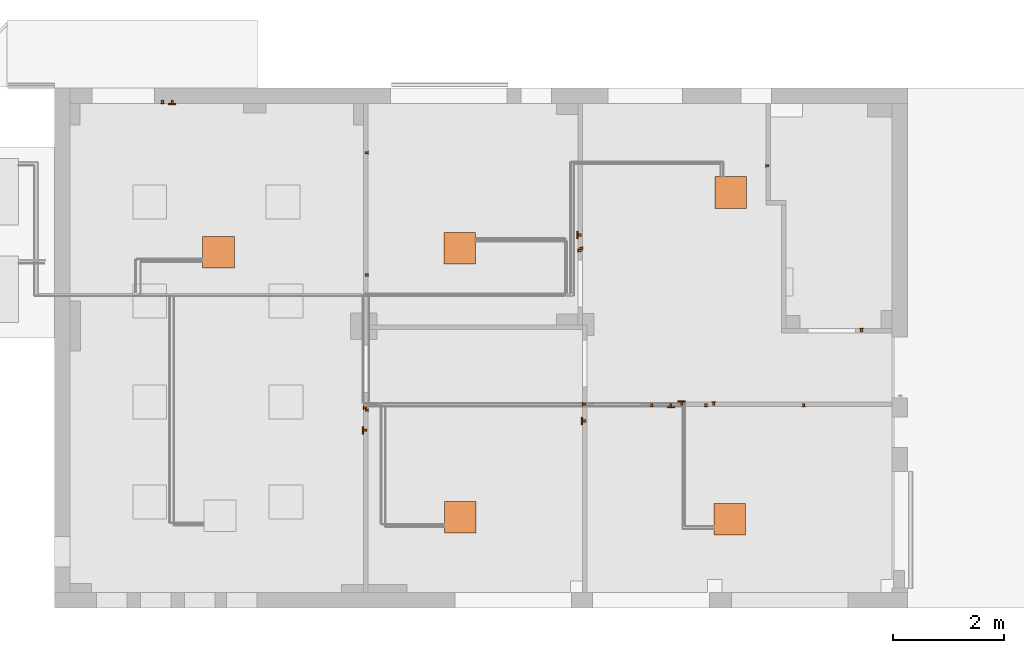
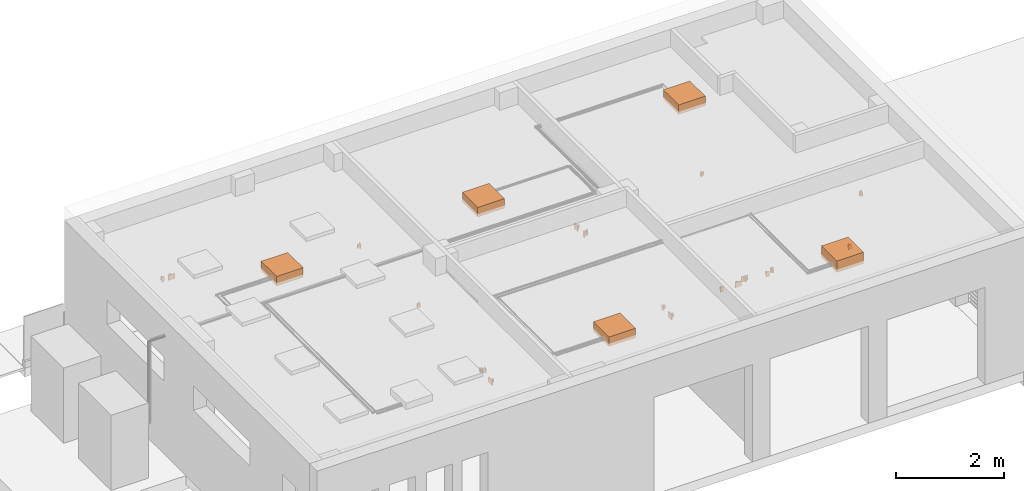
# One storey, part 21 of 22: 25 proxies.
"""IFC2X3 building model written with IfcOpenShell, lengths in millimetres."""

from ifc_helpers import new_model, entity, si_unit, converted_unit, derived_unit, direction, frame, frame_2d, origin, origin_2d_with_axis, place, context, subcontext, project, spatial, rectangle, extrude, source, transform, mapped, material, material_list, type_object, type_shapes, element, save


model = new_model("IFC2X3")

# Units and contexts
model_context = context("Model", 3, precision=0.01, world=origin(), true_north=direction((6.123031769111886e-17, 1.0)))
body_context = subcontext(model_context, "Body", "Model", "MODEL_VIEW")
ifc_project = project(units=[si_unit("LENGTHUNIT", "METRE", prefix="MILLI"), si_unit("AREAUNIT", "SQUARE_METRE"), si_unit("VOLUMEUNIT", "CUBIC_METRE"), converted_unit("PLANEANGLEUNIT", "DEGREE", entity("IfcRatioMeasure", 0.017453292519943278), si_unit("PLANEANGLEUNIT", "RADIAN"), dimensions=[0, 0, 0, 0, 0, 0, 0]), si_unit("MASSUNIT", "GRAM", prefix="KILO"), derived_unit("MASSDENSITYUNIT", [(si_unit("MASSUNIT", "GRAM", prefix="KILO"), 1), (si_unit("LENGTHUNIT", "METRE"), -3)]), derived_unit("MOMENTOFINERTIAUNIT", [(si_unit("LENGTHUNIT", "METRE"), 4)]), si_unit("TIMEUNIT", "SECOND"), si_unit("FREQUENCYUNIT", "HERTZ"), si_unit("THERMODYNAMICTEMPERATUREUNIT", "DEGREE_CELSIUS"), derived_unit("THERMALTRANSMITTANCEUNIT", [(si_unit("MASSUNIT", "GRAM", prefix="KILO"), 1), (si_unit("THERMODYNAMICTEMPERATUREUNIT", "KELVIN"), -1), (si_unit("TIMEUNIT", "SECOND"), -3)]), derived_unit("VOLUMETRICFLOWRATEUNIT", [(si_unit("LENGTHUNIT", "METRE"), 3), (si_unit("TIMEUNIT", "SECOND"), -1)]), derived_unit("MASSFLOWRATEUNIT", [(si_unit("MASSUNIT", "GRAM", prefix="KILO"), 1), (si_unit("TIMEUNIT", "SECOND"), -1)]), derived_unit("ROTATIONALFREQUENCYUNIT", [(si_unit("TIMEUNIT", "SECOND"), -1)]), si_unit("ELECTRICCURRENTUNIT", "AMPERE"), si_unit("ELECTRICVOLTAGEUNIT", "VOLT"), si_unit("POWERUNIT", "WATT"), si_unit("FORCEUNIT", "NEWTON", prefix="KILO"), si_unit("ILLUMINANCEUNIT", "LUX"), si_unit("LUMINOUSFLUXUNIT", "LUMEN"), si_unit("LUMINOUSINTENSITYUNIT", "CANDELA"), derived_unit("USERDEFINED", [(si_unit("MASSUNIT", "GRAM", prefix="KILO"), -1), (si_unit("LENGTHUNIT", "METRE"), -2), (si_unit("TIMEUNIT", "SECOND"), 3), (si_unit("LUMINOUSFLUXUNIT", "LUMEN"), 1)]), derived_unit("SOUNDPOWERUNIT", [(si_unit("MASSUNIT", "GRAM", prefix="KILO"), 1), (si_unit("LENGTHUNIT", "METRE"), 2), (si_unit("TIMEUNIT", "SECOND"), -3)]), derived_unit("SOUNDPRESSUREUNIT", [(si_unit("MASSUNIT", "GRAM", prefix="KILO"), 1), (si_unit("LENGTHUNIT", "METRE"), -1), (si_unit("TIMEUNIT", "SECOND"), -2)]), derived_unit("LINEARVELOCITYUNIT", [(si_unit("LENGTHUNIT", "METRE"), 1), (si_unit("TIMEUNIT", "SECOND"), -1)]), si_unit("PRESSUREUNIT", "PASCAL"), derived_unit("USERDEFINED", [(si_unit("LENGTHUNIT", "METRE"), -2), (si_unit("MASSUNIT", "GRAM", prefix="KILO"), 1), (si_unit("TIMEUNIT", "SECOND"), -2)]), derived_unit("LINEARFORCEUNIT", [(si_unit("MASSUNIT", "GRAM", prefix="KILO"), 1), (si_unit("LENGTHUNIT", "METRE"), 1), (si_unit("TIMEUNIT", "SECOND"), -2), (si_unit("LENGTHUNIT", "METRE"), -1)]), derived_unit("PLANARFORCEUNIT", [(si_unit("MASSUNIT", "GRAM", prefix="KILO"), 1), (si_unit("LENGTHUNIT", "METRE"), 1), (si_unit("TIMEUNIT", "SECOND"), -2), (si_unit("LENGTHUNIT", "METRE"), -2)])], contexts=[model_context])

# Site, building, storey
site_placement = place(None, origin())
site = spatial("IfcSite", under=ifc_project, at=site_placement, Name="Default", CompositionType="ELEMENT")
building_placement = place(site_placement, origin())
building = spatial("IfcBuilding", under=site, at=building_placement, CompositionType="ELEMENT")
storey_placement = place(building_placement, frame((0.0, 0.0, 3300.0)))
storey = spatial("IfcBuildingStorey", under=building, at=storey_placement, Name="Level 2", CompositionType="ELEMENT", Elevation=3299.99999999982)

# Proxies
ifc_material = material(Name="<Unnamed>")
building_element_proxy_type_1 = type_object("IfcBuildingElementProxyType", Name="Indoor LG 4way simple box KRIPIS v3 SYSTEMS:ARNU12GTRC4:ARNU12GTRC4 : Indoor LG 4way simple box KRIPIS v3 SYSTEMS:ARNU12GTRC4", PredefinedType="NOTDEFINED", material=ifc_material)
shared_shape_1 = source(origin(), body_context, "Body", "SweptSolid", [
    extrude(rectangle(XDim=570.0, YDim=569.9999999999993, at=frame_2d((1.4210854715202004e-13, 5.400124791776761e-13), x_axis=(1.0, 0.0))), frame((-6470.581850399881, 2334.1521982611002, 5890.0), z_axis=(0.0, 0.0, 1.0), x_axis=(0.0, 1.0, 0.0)), (0.0, 0.0, 1.0), 214.00000000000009),
])
type_shapes(building_element_proxy_type_1, [shared_shape_1])
proxy_1_placement = place(storey_placement, frame((0.0, 0.0, -3300.0)))
element("IfcBuildingElementProxy", 1, at=proxy_1_placement, inside=storey, type_object=building_element_proxy_type_1, material=ifc_material, context=body_context, shape_type="MappedRepresentation", body=[
    mapped(shared_shape_1, transform((0.0, 0.0, 0.0), scale=1.0)),
])
ifc_material_list_1 = material_list([ifc_material, ifc_material])
ifc_material_list_2 = material_list([ifc_material, ifc_material])
building_element_proxy_type_2 = type_object("IfcBuildingElementProxyType", Name="M_Lighting Switches:Single Pole:Single Pole : M_Lighting Switches:Single Pole", PredefinedType="NOTDEFINED", material=ifc_material_list_2)
shared_shape_2 = source(origin(), body_context, "Body", "SweptSolid", [
    extrude(rectangle(XDim=38.099999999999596, YDim=53.97500000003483, at=frame_2d((0.0, 2.7000623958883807e-13), x_axis=(1.0, 0.0))), frame((-3830.36827874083, -466.647037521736, 4461.899999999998), z_axis=(0.0, 0.0, 1.0), x_axis=(0.0, 1.0, 0.0)), (0.0, 0.0, 1.0), 76.20000000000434),
    extrude(rectangle(XDim=69.84999999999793, YDim=4.762499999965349, at=origin_2d_with_axis()), frame((-3859.7370287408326, -466.647037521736, 4442.849999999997), z_axis=(0.0, 0.0, 1.0), x_axis=(0.0, 1.0, 0.0)), (0.0, 0.0, 1.0), 114.3000000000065),
])
type_shapes(building_element_proxy_type_2, [shared_shape_2])
proxy_2_placement = place(storey_placement, frame((0.0, 0.0, -3300.0)))
element("IfcBuildingElementProxy", 2, at=proxy_2_placement, inside=storey, type_object=building_element_proxy_type_2, material=ifc_material_list_1, Name="M_Lighting Switches:Single Pole:Single Pole : M_Lighting Switches:Single Pole:Single Pole:Single Pole : M_Lighting Switches:Single Pole : M_Lighting Switches:Single Pole:Single Pole : M_Lighting Switches:Single Pole", ObjectType="M_Lighting Switches:Single Pole:Single Pole : M_Lighting Switches:Single Pole:Single Pole:Single Pole : M_Lighting Switches:Single Pole : M_Lighting Switches:Single Pole:Single Pole : M_Lighting Switches:Single Pole", context=body_context, shape_type="MappedRepresentation", body=[
    mapped(shared_shape_2, transform((0.0, 0.0, 0.0), scale=1.0)),
])
ifc_material_list_3 = material_list([ifc_material, ifc_material])
ifc_material_list_4 = material_list([ifc_material, ifc_material])
building_element_proxy_type_3 = type_object("IfcBuildingElementProxyType", Name="M_Lighting Switches:Three Way:Three Way : M_Lighting Switches:Three Way", PredefinedType="NOTDEFINED", material=ifc_material_list_4)
shared_shape_3 = source(origin(), body_context, "Body", "SweptSolid", [
    extrude(rectangle(XDim=38.1, YDim=53.97500000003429, at=frame_2d((0.0, -5.400124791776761e-13), x_axis=(1.0, 0.0))), frame((-7477.35577874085, 5038.14901326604, 4461.899999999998), z_axis=(0.0, 0.0, 1.0), x_axis=(-1.0, 0.0, 0.0)), (0.0, 0.0, 1.0), 76.20000000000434),
    extrude(rectangle(XDim=69.84999999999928, YDim=4.762499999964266, at=frame_2d((0.0, -5.415667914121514e-13), x_axis=(1.0, 0.0))), frame((-7477.35577874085, 5008.780263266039, 4442.849999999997), z_axis=(0.0, 0.0, 1.0), x_axis=(-1.0, 0.0, 0.0)), (0.0, 0.0, 1.0), 114.3000000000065),
])
type_shapes(building_element_proxy_type_3, [shared_shape_3])
proxy_3_placement = place(storey_placement, frame((0.0, 0.0, -3300.0)))
element("IfcBuildingElementProxy", 3, at=proxy_3_placement, inside=storey, type_object=building_element_proxy_type_3, material=ifc_material_list_3, Name="M_Lighting Switches:Three Way:Three Way : M_Lighting Switches:Three Way:Three Way:Three Way : M_Lighting Switches:Three Way : M_Lighting Switches:Three Way:Three Way : M_Lighting Switches:Three Way", ObjectType="M_Lighting Switches:Three Way:Three Way : M_Lighting Switches:Three Way:Three Way:Three Way : M_Lighting Switches:Three Way : M_Lighting Switches:Three Way:Three Way : M_Lighting Switches:Three Way", context=body_context, shape_type="MappedRepresentation", body=[
    mapped(shared_shape_3, transform((0.0, 0.0, 0.0), scale=1.0)),
])
ifc_material_list_5 = material_list([ifc_material, ifc_material])
ifc_material_list_6 = material_list([ifc_material, ifc_material])
building_element_proxy_type_4 = type_object("IfcBuildingElementProxyType", Name="Thermostat Kripis v3:Standard:Standard : Thermostat Kripis v3:Standard", PredefinedType="NOTDEFINED", material=ifc_material_list_6)
shared_shape_4 = source(origin(), body_context, "Body", "SweptSolid", [
    extrude(rectangle(XDim=38.10000000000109, YDim=53.97500000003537, at=frame_2d((5.417888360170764e-13, 0.0), x_axis=(1.0, 0.0))), frame((-7305.450501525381, 5038.14901326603, 4461.899999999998), z_axis=(0.0, 0.0, 1.0), x_axis=(-1.0, 0.0, 0.0)), (0.0, 0.0, 1.0), 76.20000000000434),
    extrude(rectangle(XDim=136.02499999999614, YDim=20.733368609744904, at=frame_2d((-5.400124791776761e-13, -5.417888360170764e-13), x_axis=(1.0, 0.0))), frame((-7303.388001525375, 5000.794828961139, 4442.849999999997), z_axis=(0.0, 0.0, 1.0), x_axis=(-1.0, 0.0, 0.0)), (0.0, 0.0, 1.0), 114.3000000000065),
])
type_shapes(building_element_proxy_type_4, [shared_shape_4])
proxy_4_placement = place(storey_placement, frame((0.0, 0.0, -3300.0)))
element("IfcBuildingElementProxy", 4, at=proxy_4_placement, inside=storey, type_object=building_element_proxy_type_4, material=ifc_material_list_5, Name="Thermostat Kripis v3:Standard:Standard : Thermostat Kripis v3:Standard:Standard:Standard : Thermostat Kripis v3:Standard : Thermostat Kripis v3:Standard:Standard : Thermostat Kripis v3:Standard", ObjectType="Thermostat Kripis v3:Standard:Standard : Thermostat Kripis v3:Standard:Standard:Standard : Thermostat Kripis v3:Standard : Thermostat Kripis v3:Standard:Standard : Thermostat Kripis v3:Standard", context=body_context, shape_type="MappedRepresentation", body=[
    mapped(shared_shape_4, transform((0.0, 0.0, 0.0), scale=1.0)),
])
ifc_material_list_7 = material_list([ifc_material, ifc_material])
ifc_material_list_8 = material_list([ifc_material, ifc_material])
building_element_proxy_type_5 = type_object("IfcBuildingElementProxyType", Name="Thermostat Kripis v3:Standard:Standard : Thermostat Kripis v3:Standard", PredefinedType="NOTDEFINED", material=ifc_material_list_8)
shared_shape_5 = source(origin(), body_context, "Body", "SweptSolid", [
    extrude(rectangle(XDim=38.09999999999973, YDim=53.97500000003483, at=frame_2d((0.0, 2.7000623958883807e-13), x_axis=(1.0, 0.0))), frame((-3830.36827874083, -875.838486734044, 4461.899999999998), z_axis=(0.0, 0.0, 1.0), x_axis=(0.0, 1.0, 0.0)), (0.0, 0.0, 1.0), 76.20000000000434),
    extrude(rectangle(XDim=136.02499999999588, YDim=20.73336860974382, at=origin_2d_with_axis()), frame((-3867.7224630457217, -877.9009867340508, 4442.849999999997), z_axis=(0.0, 0.0, 1.0), x_axis=(0.0, 1.0, 0.0)), (0.0, 0.0, 1.0), 114.3000000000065),
])
type_shapes(building_element_proxy_type_5, [shared_shape_5])
proxy_5_placement = place(storey_placement, frame((0.0, 0.0, -3300.0)))
element("IfcBuildingElementProxy", 5, at=proxy_5_placement, inside=storey, type_object=building_element_proxy_type_5, material=ifc_material_list_7, Name="Thermostat Kripis v3:Standard:Standard : Thermostat Kripis v3:Standard:Standard:Standard : Thermostat Kripis v3:Standard : Thermostat Kripis v3:Standard:Standard : Thermostat Kripis v3:Standard", ObjectType="Thermostat Kripis v3:Standard:Standard : Thermostat Kripis v3:Standard:Standard:Standard : Thermostat Kripis v3:Standard : Thermostat Kripis v3:Standard:Standard : Thermostat Kripis v3:Standard", context=body_context, shape_type="MappedRepresentation", body=[
    mapped(shared_shape_5, transform((0.0, 0.0, 0.0), scale=1.0)),
])
building_element_proxy_type_6 = type_object("IfcBuildingElementProxyType", Name="Indoor LG 4way simple box KRIPIS v3 SYSTEMS:ARNU07GTRC4:ARNU07GTRC4 : Indoor LG 4way simple box KRIPIS v3 SYSTEMS:ARNU07GTRC4", PredefinedType="NOTDEFINED", material=ifc_material)
shared_shape_6 = source(origin(), body_context, "Body", "SweptSolid", [
    extrude(rectangle(XDim=570.0, YDim=569.9999999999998, at=frame_2d((-1.4210854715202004e-13, 0.0), x_axis=(1.0, 0.0))), frame((-2128.35612595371, 2401.16185450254, 5890.0), z_axis=(0.0, 0.0, 1.0), x_axis=(0.0, -1.0, 0.0)), (0.0, 0.0, 1.0), 214.00000000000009),
])
type_shapes(building_element_proxy_type_6, [shared_shape_6])
proxy_6_placement = place(storey_placement, frame((0.0, 0.0, -3300.0)))
element("IfcBuildingElementProxy", 6, at=proxy_6_placement, inside=storey, type_object=building_element_proxy_type_6, material=ifc_material, context=body_context, shape_type="MappedRepresentation", body=[
    mapped(shared_shape_6, transform((0.0, 0.0, 0.0), scale=1.0)),
])
ifc_material_list_9 = material_list([ifc_material, ifc_material])
ifc_material_list_10 = material_list([ifc_material, ifc_material])
building_element_proxy_type_7 = type_object("IfcBuildingElementProxyType", Name="M_Lighting Switches:Single Pole:Single Pole : M_Lighting Switches:Single Pole", PredefinedType="NOTDEFINED", material=ifc_material_list_10)
shared_shape_7 = source(origin(), body_context, "Body", "SweptSolid", [
    extrude(rectangle(XDim=38.09999999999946, YDim=53.975000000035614, at=origin_2d_with_axis()), frame((30.599151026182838, 2362.54883130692, 4461.899999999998), z_axis=(0.0, 0.0, 1.0), x_axis=(0.0, 1.0, 0.0)), (0.0, 0.0, 1.0), 76.20000000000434),
    extrude(rectangle(XDim=69.84999999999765, YDim=4.7624999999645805, at=frame_2d((0.0, -2.220446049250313e-16), x_axis=(1.0, 0.0))), frame((1.2304010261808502, 2362.54883130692, 4442.849999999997), z_axis=(0.0, 0.0, 1.0), x_axis=(0.0, 1.0, 0.0)), (0.0, 0.0, 1.0), 114.3000000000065),
])
type_shapes(building_element_proxy_type_7, [shared_shape_7])
proxy_7_placement = place(storey_placement, frame((0.0, 0.0, -3300.0)))
element("IfcBuildingElementProxy", 7, at=proxy_7_placement, inside=storey, type_object=building_element_proxy_type_7, material=ifc_material_list_9, Name="M_Lighting Switches:Single Pole:Single Pole : M_Lighting Switches:Single Pole:Single Pole:Single Pole : M_Lighting Switches:Single Pole : M_Lighting Switches:Single Pole:Single Pole : M_Lighting Switches:Single Pole", ObjectType="M_Lighting Switches:Single Pole:Single Pole : M_Lighting Switches:Single Pole:Single Pole:Single Pole : M_Lighting Switches:Single Pole : M_Lighting Switches:Single Pole:Single Pole : M_Lighting Switches:Single Pole", context=body_context, shape_type="MappedRepresentation", body=[
    mapped(shared_shape_7, transform((0.0, 0.0, 0.0), scale=1.0)),
])
ifc_material_list_11 = material_list([ifc_material, ifc_material])
ifc_material_list_12 = material_list([ifc_material, ifc_material])
building_element_proxy_type_8 = type_object("IfcBuildingElementProxyType", Name="M_Lighting Switches:Single Pole:Single Pole : M_Lighting Switches:Single Pole", PredefinedType="NOTDEFINED", material=ifc_material_list_12)
shared_shape_8 = source(origin(), body_context, "Body", "SweptSolid", [
    extrude(rectangle(XDim=38.1, YDim=53.97500000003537, at=origin_2d_with_axis()), frame((-3802.3432787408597, 4122.54883130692, 4461.899999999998), z_axis=(0.0, 0.0, 1.0), x_axis=(0.0, -1.0, 0.0)), (0.0, 0.0, 1.0), 76.20000000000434),
    extrude(rectangle(XDim=69.8499999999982, YDim=4.762499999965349, at=origin_2d_with_axis()), frame((-3772.9745287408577, 4122.54883130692, 4442.849999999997), z_axis=(0.0, 0.0, 1.0), x_axis=(0.0, -1.0, 0.0)), (0.0, 0.0, 1.0), 114.3000000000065),
])
type_shapes(building_element_proxy_type_8, [shared_shape_8])
proxy_8_placement = place(storey_placement, frame((0.0, 0.0, -3300.0)))
element("IfcBuildingElementProxy", 8, at=proxy_8_placement, inside=storey, type_object=building_element_proxy_type_8, material=ifc_material_list_11, Name="M_Lighting Switches:Single Pole:Single Pole : M_Lighting Switches:Single Pole:Single Pole:Single Pole : M_Lighting Switches:Single Pole : M_Lighting Switches:Single Pole:Single Pole : M_Lighting Switches:Single Pole", ObjectType="M_Lighting Switches:Single Pole:Single Pole : M_Lighting Switches:Single Pole:Single Pole:Single Pole : M_Lighting Switches:Single Pole : M_Lighting Switches:Single Pole:Single Pole : M_Lighting Switches:Single Pole", context=body_context, shape_type="MappedRepresentation", body=[
    mapped(shared_shape_8, transform((0.0, 0.0, 0.0), scale=1.0)),
])
ifc_material_list_13 = material_list([ifc_material, ifc_material])
ifc_material_list_14 = material_list([ifc_material, ifc_material])
building_element_proxy_type_9 = type_object("IfcBuildingElementProxyType", Name="M_Lighting Switches:Single Pole:Single Pole : M_Lighting Switches:Single Pole", PredefinedType="NOTDEFINED", material=ifc_material_list_14)
shared_shape_9 = source(origin(), body_context, "Body", "SweptSolid", [
    extrude(rectangle(XDim=38.09999999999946, YDim=53.97500000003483, at=frame_2d((0.0, -2.7000623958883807e-13), x_axis=(1.0, 0.0))), frame((-3802.34327874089, 1922.54883130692, 4461.899999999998), z_axis=(0.0, 0.0, 1.0), x_axis=(0.0, -1.0, 0.0)), (0.0, 0.0, 1.0), 76.20000000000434),
    extrude(rectangle(XDim=69.8499999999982, YDim=4.762499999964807, at=frame_2d((0.0, -2.708944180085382e-13), x_axis=(1.0, 0.0))), frame((-3772.974528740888, 1922.54883130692, 4442.849999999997), z_axis=(0.0, 0.0, 1.0), x_axis=(0.0, -1.0, 0.0)), (0.0, 0.0, 1.0), 114.3000000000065),
])
type_shapes(building_element_proxy_type_9, [shared_shape_9])
proxy_9_placement = place(storey_placement, frame((0.0, 0.0, -3300.0)))
element("IfcBuildingElementProxy", 9, at=proxy_9_placement, inside=storey, type_object=building_element_proxy_type_9, material=ifc_material_list_13, Name="M_Lighting Switches:Single Pole:Single Pole : M_Lighting Switches:Single Pole:Single Pole:Single Pole : M_Lighting Switches:Single Pole : M_Lighting Switches:Single Pole:Single Pole : M_Lighting Switches:Single Pole", ObjectType="M_Lighting Switches:Single Pole:Single Pole : M_Lighting Switches:Single Pole:Single Pole:Single Pole : M_Lighting Switches:Single Pole : M_Lighting Switches:Single Pole:Single Pole : M_Lighting Switches:Single Pole", context=body_context, shape_type="MappedRepresentation", body=[
    mapped(shared_shape_9, transform((0.0, 0.0, 0.0), scale=1.0)),
])
ifc_material_list_15 = material_list([ifc_material, ifc_material])
ifc_material_list_16 = material_list([ifc_material, ifc_material])
building_element_proxy_type_10 = type_object("IfcBuildingElementProxyType", Name="Thermostat Kripis v3:Standard:Standard : Thermostat Kripis v3:Standard", PredefinedType="NOTDEFINED", material=ifc_material_list_16)
shared_shape_10 = source(origin(), body_context, "Body", "SweptSolid", [
    extrude(rectangle(XDim=38.09999999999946, YDim=53.975000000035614, at=frame_2d((2.7000623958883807e-13, 0.0), x_axis=(1.0, 0.0))), frame((30.599151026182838, 2642.54883130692, 4461.899999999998), z_axis=(0.0, 0.0, 1.0), x_axis=(0.0, 1.0, 0.0)), (0.0, 0.0, 1.0), 76.20000000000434),
    extrude(rectangle(XDim=136.02499999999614, YDim=20.733368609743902, at=origin_2d_with_axis()), frame((-6.755033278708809, 2640.486331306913, 4442.849999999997), z_axis=(0.0, 0.0, 1.0), x_axis=(0.0, 1.0, 0.0)), (0.0, 0.0, 1.0), 114.3000000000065),
])
type_shapes(building_element_proxy_type_10, [shared_shape_10])
proxy_10_placement = place(storey_placement, frame((0.0, 0.0, -3300.0)))
element("IfcBuildingElementProxy", 10, at=proxy_10_placement, inside=storey, type_object=building_element_proxy_type_10, material=ifc_material_list_15, Name="Thermostat Kripis v3:Standard:Standard : Thermostat Kripis v3:Standard:Standard:Standard : Thermostat Kripis v3:Standard : Thermostat Kripis v3:Standard:Standard : Thermostat Kripis v3:Standard", ObjectType="Thermostat Kripis v3:Standard:Standard : Thermostat Kripis v3:Standard:Standard:Standard : Thermostat Kripis v3:Standard : Thermostat Kripis v3:Standard:Standard : Thermostat Kripis v3:Standard", context=body_context, shape_type="MappedRepresentation", body=[
    mapped(shared_shape_10, transform((0.0, 0.0, 0.0), scale=1.0)),
])
building_element_proxy_type_11 = type_object("IfcBuildingElementProxyType", Name="Indoor LG 4way simple box KRIPIS v3 SYSTEMS:ARNU12GTRC4:ARNU12GTRC4 : Indoor LG 4way simple box KRIPIS v3 SYSTEMS:ARNU12GTRC4", PredefinedType="NOTDEFINED", material=ifc_material)
shared_shape_11 = source(origin(), body_context, "Body", "SweptSolid", [
    extrude(rectangle(XDim=570.0000000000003, YDim=569.9999999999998, at=origin_2d_with_axis()), frame((-2114.95419470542, -2436.93532613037, 5890.0), z_axis=(0.0, 0.0, 1.0), x_axis=(0.0, 1.0, 0.0)), (0.0, 0.0, 1.0), 214.00000000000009),
])
type_shapes(building_element_proxy_type_11, [shared_shape_11])
proxy_11_placement = place(storey_placement, frame((0.0, 0.0, -3300.0)))
element("IfcBuildingElementProxy", 11, at=proxy_11_placement, inside=storey, type_object=building_element_proxy_type_11, material=ifc_material, context=body_context, shape_type="MappedRepresentation", body=[
    mapped(shared_shape_11, transform((0.0, 0.0, 0.0), scale=1.0)),
])
ifc_material_list_17 = material_list([ifc_material, ifc_material])
ifc_material_list_18 = material_list([ifc_material, ifc_material])
building_element_proxy_type_12 = type_object("IfcBuildingElementProxyType", Name="M_Lighting Switches:Three Way:Three Way : M_Lighting Switches:Three Way", PredefinedType="NOTDEFINED", material=ifc_material_list_18)
shared_shape_12 = source(origin(), body_context, "Body", "SweptSolid", [
    extrude(rectangle(XDim=38.09999999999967, YDim=53.97500000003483, at=frame_2d((-3.375077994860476e-14, 2.7000623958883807e-13), x_axis=(1.0, 0.0))), frame((-3802.3432787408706, -514.9691144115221, 4461.899999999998), z_axis=(0.0, 0.0, 1.0), x_axis=(0.0, -1.0, 0.0)), (0.0, 0.0, 1.0), 76.20000000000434),
    extrude(rectangle(XDim=69.849999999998, YDim=4.762499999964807, at=frame_2d((3.197442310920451e-14, -2.708944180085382e-13), x_axis=(1.0, 0.0))), frame((-3772.974528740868, -514.969114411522, 4442.849999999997), z_axis=(0.0, 0.0, 1.0), x_axis=(0.0, -1.0, 0.0)), (0.0, 0.0, 1.0), 114.3000000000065),
])
type_shapes(building_element_proxy_type_12, [shared_shape_12])
proxy_12_placement = place(storey_placement, frame((0.0, 0.0, -3300.0)))
element("IfcBuildingElementProxy", 12, at=proxy_12_placement, inside=storey, type_object=building_element_proxy_type_12, material=ifc_material_list_17, Name="M_Lighting Switches:Three Way:Three Way : M_Lighting Switches:Three Way:Three Way:Three Way : M_Lighting Switches:Three Way : M_Lighting Switches:Three Way:Three Way : M_Lighting Switches:Three Way", ObjectType="M_Lighting Switches:Three Way:Three Way : M_Lighting Switches:Three Way:Three Way:Three Way : M_Lighting Switches:Three Way : M_Lighting Switches:Three Way:Three Way : M_Lighting Switches:Three Way", context=body_context, shape_type="MappedRepresentation", body=[
    mapped(shared_shape_12, transform((0.0, 0.0, 0.0), scale=1.0)),
])
ifc_material_list_19 = material_list([ifc_material, ifc_material])
ifc_material_list_20 = material_list([ifc_material, ifc_material])
building_element_proxy_type_13 = type_object("IfcBuildingElementProxyType", Name="M_Lighting Switches:Three Way:Three Way : M_Lighting Switches:Three Way", PredefinedType="NOTDEFINED", material=ifc_material_list_20)
shared_shape_13 = source(origin(), body_context, "Body", "SweptSolid", [
    extrude(rectangle(XDim=38.099999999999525, YDim=53.975000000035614, at=frame_2d((-3.375077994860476e-14, 0.0), x_axis=(1.0, 0.0))), frame((112.59915102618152, -404.6470375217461, 4461.899999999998), z_axis=(0.0, 0.0, 1.0), x_axis=(0.0, 1.0, 0.0)), (0.0, 0.0, 1.0), 76.20000000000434),
    extrude(rectangle(XDim=69.849999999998, YDim=4.76249999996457, at=frame_2d((-3.197442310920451e-14, 0.0), x_axis=(1.0, 0.0))), frame((83.23040102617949, -404.6470375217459, 4442.849999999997), z_axis=(0.0, 0.0, 1.0), x_axis=(0.0, 1.0, 0.0)), (0.0, 0.0, 1.0), 114.3000000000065),
])
type_shapes(building_element_proxy_type_13, [shared_shape_13])
proxy_13_placement = place(storey_placement, frame((0.0, 0.0, -3300.0)))
element("IfcBuildingElementProxy", 13, at=proxy_13_placement, inside=storey, type_object=building_element_proxy_type_13, material=ifc_material_list_19, Name="M_Lighting Switches:Three Way:Three Way : M_Lighting Switches:Three Way:Three Way:Three Way : M_Lighting Switches:Three Way : M_Lighting Switches:Three Way:Three Way : M_Lighting Switches:Three Way", ObjectType="M_Lighting Switches:Three Way:Three Way : M_Lighting Switches:Three Way:Three Way:Three Way : M_Lighting Switches:Three Way : M_Lighting Switches:Three Way:Three Way : M_Lighting Switches:Three Way", context=body_context, shape_type="MappedRepresentation", body=[
    mapped(shared_shape_13, transform((0.0, 0.0, 0.0), scale=1.0)),
])
ifc_material_list_21 = material_list([ifc_material, ifc_material])
ifc_material_list_22 = material_list([ifc_material, ifc_material])
building_element_proxy_type_14 = type_object("IfcBuildingElementProxyType", Name="Thermostat Kripis v3:Standard:Standard : Thermostat Kripis v3:Standard", PredefinedType="NOTDEFINED", material=ifc_material_list_22)
shared_shape_14 = source(origin(), body_context, "Body", "SweptSolid", [
    extrude(rectangle(XDim=38.09999999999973, YDim=53.975000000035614, at=origin_2d_with_axis()), frame((112.59915102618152, -706.647037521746, 4461.899999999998), z_axis=(0.0, 0.0, 1.0), x_axis=(0.0, 1.0, 0.0)), (0.0, 0.0, 1.0), 76.20000000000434),
    extrude(rectangle(XDim=136.024999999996, YDim=20.733368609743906, at=frame_2d((-6.394884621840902e-14, 0.0), x_axis=(1.0, 0.0))), frame((75.24496672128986, -708.7095375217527, 4442.849999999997), z_axis=(0.0, 0.0, 1.0), x_axis=(0.0, 1.0, 0.0)), (0.0, 0.0, 1.0), 114.3000000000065),
])
type_shapes(building_element_proxy_type_14, [shared_shape_14])
proxy_14_placement = place(storey_placement, frame((0.0, 0.0, -3300.0)))
element("IfcBuildingElementProxy", 14, at=proxy_14_placement, inside=storey, type_object=building_element_proxy_type_14, material=ifc_material_list_21, Name="Thermostat Kripis v3:Standard:Standard : Thermostat Kripis v3:Standard:Standard:Standard : Thermostat Kripis v3:Standard : Thermostat Kripis v3:Standard:Standard : Thermostat Kripis v3:Standard", ObjectType="Thermostat Kripis v3:Standard:Standard : Thermostat Kripis v3:Standard:Standard:Standard : Thermostat Kripis v3:Standard : Thermostat Kripis v3:Standard:Standard : Thermostat Kripis v3:Standard", context=body_context, shape_type="MappedRepresentation", body=[
    mapped(shared_shape_14, transform((0.0, 0.0, 0.0), scale=1.0)),
])
building_element_proxy_type_15 = type_object("IfcBuildingElementProxyType", Name="Indoor LG 4way simple box KRIPIS v3 SYSTEMS:ARNU18GTQC4:ARNU18GTQC4 : Indoor LG 4way simple box KRIPIS v3 SYSTEMS:ARNU18GTQC4", PredefinedType="NOTDEFINED", material=ifc_material)
shared_shape_15 = source(origin(), body_context, "Body", "SweptSolid", [
    extrude(rectangle(XDim=569.9999999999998, YDim=569.9999999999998, at=frame_2d((2.5579538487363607e-13, 2.5579538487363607e-13), x_axis=(1.0, 0.0))), frame((2736.5449171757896, -2477.14111987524, 5890.0), z_axis=(0.0, 0.0, 1.0), x_axis=(0.0, 1.0, 0.0)), (0.0, 0.0, 1.0), 256.0000000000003),
])
type_shapes(building_element_proxy_type_15, [shared_shape_15])
proxy_15_placement = place(storey_placement, frame((0.0, 0.0, -3300.0)))
element("IfcBuildingElementProxy", 15, at=proxy_15_placement, inside=storey, type_object=building_element_proxy_type_15, material=ifc_material, context=body_context, shape_type="MappedRepresentation", body=[
    mapped(shared_shape_15, transform((0.0, 0.0, 0.0), scale=1.0)),
])
ifc_material_list_23 = material_list([ifc_material, ifc_material])
ifc_material_list_24 = material_list([ifc_material, ifc_material])
building_element_proxy_type_16 = type_object("IfcBuildingElementProxyType", Name="M_Lighting Switches:Single Pole:Single Pole : M_Lighting Switches:Single Pole", PredefinedType="NOTDEFINED", material=ifc_material_list_24)
shared_shape_16 = source(origin(), body_context, "Body", "SweptSolid", [
    extrude(rectangle(XDim=38.09999999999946, YDim=53.97500000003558, at=frame_2d((0.0, 3.375077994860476e-14), x_axis=(1.0, 0.0))), frame((1327.61165102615, -419.6595375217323, 4461.899999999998), z_axis=(0.0, 0.0, 1.0), x_axis=(-1.0, 0.0, 0.0)), (0.0, 0.0, 1.0), 76.20000000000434),
    extrude(rectangle(XDim=69.8499999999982, YDim=4.762499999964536, at=origin_2d_with_axis()), frame((1327.61165102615, -449.02828752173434, 4442.849999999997), z_axis=(0.0, 0.0, 1.0), x_axis=(-1.0, 0.0, 0.0)), (0.0, 0.0, 1.0), 114.3000000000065),
])
type_shapes(building_element_proxy_type_16, [shared_shape_16])
proxy_16_placement = place(storey_placement, frame((0.0, 0.0, -3300.0)))
element("IfcBuildingElementProxy", 16, at=proxy_16_placement, inside=storey, type_object=building_element_proxy_type_16, material=ifc_material_list_23, Name="M_Lighting Switches:Single Pole:Single Pole : M_Lighting Switches:Single Pole:Single Pole:Single Pole : M_Lighting Switches:Single Pole : M_Lighting Switches:Single Pole:Single Pole : M_Lighting Switches:Single Pole", ObjectType="M_Lighting Switches:Single Pole:Single Pole : M_Lighting Switches:Single Pole:Single Pole:Single Pole : M_Lighting Switches:Single Pole : M_Lighting Switches:Single Pole:Single Pole : M_Lighting Switches:Single Pole", context=body_context, shape_type="MappedRepresentation", body=[
    mapped(shared_shape_16, transform((0.0, 0.0, 0.0), scale=1.0)),
])
ifc_material_list_25 = material_list([ifc_material, ifc_material])
ifc_material_list_26 = material_list([ifc_material, ifc_material])
building_element_proxy_type_17 = type_object("IfcBuildingElementProxyType", Name="M_Lighting Switches:Single Pole:Single Pole : M_Lighting Switches:Single Pole", PredefinedType="NOTDEFINED", material=ifc_material_list_26)
shared_shape_17 = source(origin(), body_context, "Body", "SweptSolid", [
    extrude(rectangle(XDim=38.09999999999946, YDim=53.97500000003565, at=origin_2d_with_axis()), frame((2307.61165102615, -419.65953752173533, 4461.899999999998), z_axis=(0.0, 0.0, 1.0), x_axis=(-1.0, 0.0, 0.0)), (0.0, 0.0, 1.0), 76.20000000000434),
    extrude(rectangle(XDim=69.84999999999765, YDim=4.762499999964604, at=frame_2d((0.0, -3.397282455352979e-14), x_axis=(1.0, 0.0))), frame((2307.61165102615, -449.0282875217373, 4442.849999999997), z_axis=(0.0, 0.0, 1.0), x_axis=(-1.0, 0.0, 0.0)), (0.0, 0.0, 1.0), 114.3000000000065),
])
type_shapes(building_element_proxy_type_17, [shared_shape_17])
proxy_17_placement = place(storey_placement, frame((0.0, 0.0, -3300.0)))
element("IfcBuildingElementProxy", 17, at=proxy_17_placement, inside=storey, type_object=building_element_proxy_type_17, material=ifc_material_list_25, Name="M_Lighting Switches:Single Pole:Single Pole : M_Lighting Switches:Single Pole:Single Pole:Single Pole : M_Lighting Switches:Single Pole : M_Lighting Switches:Single Pole:Single Pole : M_Lighting Switches:Single Pole", ObjectType="M_Lighting Switches:Single Pole:Single Pole : M_Lighting Switches:Single Pole:Single Pole:Single Pole : M_Lighting Switches:Single Pole : M_Lighting Switches:Single Pole:Single Pole : M_Lighting Switches:Single Pole", context=body_context, shape_type="MappedRepresentation", body=[
    mapped(shared_shape_17, transform((0.0, 0.0, 0.0), scale=1.0)),
])
ifc_material_list_27 = material_list([ifc_material, ifc_material])
ifc_material_list_28 = material_list([ifc_material, ifc_material])
building_element_proxy_type_18 = type_object("IfcBuildingElementProxyType", Name="M_Lighting Switches:Single Pole:Single Pole : M_Lighting Switches:Single Pole", PredefinedType="NOTDEFINED", material=ifc_material_list_28)
shared_shape_18 = source(origin(), body_context, "Body", "SweptSolid", [
    extrude(rectangle(XDim=38.09999999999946, YDim=53.97500000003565, at=frame_2d((2.7000623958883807e-13, 0.0), x_axis=(1.0, 0.0))), frame((4067.611651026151, -419.6595375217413, 4461.899999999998), z_axis=(0.0, 0.0, 1.0), x_axis=(-1.0, 0.0, 0.0)), (0.0, 0.0, 1.0), 76.20000000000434),
    extrude(rectangle(XDim=69.84999999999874, YDim=4.762499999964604, at=frame_2d((-2.7000623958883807e-13, -3.397282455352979e-14), x_axis=(1.0, 0.0))), frame((4067.61165102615, -449.0282875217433, 4442.849999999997), z_axis=(0.0, 0.0, 1.0), x_axis=(-1.0, 0.0, 0.0)), (0.0, 0.0, 1.0), 114.3000000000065),
])
type_shapes(building_element_proxy_type_18, [shared_shape_18])
proxy_18_placement = place(storey_placement, frame((0.0, 0.0, -3300.0)))
element("IfcBuildingElementProxy", 18, at=proxy_18_placement, inside=storey, type_object=building_element_proxy_type_18, material=ifc_material_list_27, Name="M_Lighting Switches:Single Pole:Single Pole : M_Lighting Switches:Single Pole:Single Pole:Single Pole : M_Lighting Switches:Single Pole : M_Lighting Switches:Single Pole:Single Pole : M_Lighting Switches:Single Pole", ObjectType="M_Lighting Switches:Single Pole:Single Pole : M_Lighting Switches:Single Pole:Single Pole:Single Pole : M_Lighting Switches:Single Pole : M_Lighting Switches:Single Pole:Single Pole : M_Lighting Switches:Single Pole", context=body_context, shape_type="MappedRepresentation", body=[
    mapped(shared_shape_18, transform((0.0, 0.0, 0.0), scale=1.0)),
])
ifc_material_list_29 = material_list([ifc_material, ifc_material])
ifc_material_list_30 = material_list([ifc_material, ifc_material])
building_element_proxy_type_19 = type_object("IfcBuildingElementProxyType", Name="Thermostat Kripis v3:Standard:Standard : Thermostat Kripis v3:Standard", PredefinedType="NOTDEFINED", material=ifc_material_list_30)
shared_shape_19 = source(origin(), body_context, "Body", "SweptSolid", [
    extrude(rectangle(XDim=38.09999999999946, YDim=53.97500000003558, at=frame_2d((2.7000623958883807e-13, -3.375077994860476e-14), x_axis=(1.0, 0.0))), frame((1671.7473652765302, -419.6595375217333, 4461.899999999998), z_axis=(0.0, 0.0, 1.0), x_axis=(-1.0, 0.0, 0.0)), (0.0, 0.0, 1.0), 76.20000000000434),
    extrude(rectangle(XDim=136.02499999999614, YDim=20.733368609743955, at=origin_2d_with_axis()), frame((1673.8098652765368, -457.01372182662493, 4442.849999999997), z_axis=(0.0, 0.0, 1.0), x_axis=(-1.0, 0.0, 0.0)), (0.0, 0.0, 1.0), 114.3000000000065),
])
type_shapes(building_element_proxy_type_19, [shared_shape_19])
proxy_19_placement = place(storey_placement, frame((0.0, 0.0, -3300.0)))
element("IfcBuildingElementProxy", 19, at=proxy_19_placement, inside=storey, type_object=building_element_proxy_type_19, material=ifc_material_list_29, Name="Thermostat Kripis v3:Standard:Standard : Thermostat Kripis v3:Standard:Standard:Standard : Thermostat Kripis v3:Standard : Thermostat Kripis v3:Standard:Standard : Thermostat Kripis v3:Standard", ObjectType="Thermostat Kripis v3:Standard:Standard : Thermostat Kripis v3:Standard:Standard:Standard : Thermostat Kripis v3:Standard : Thermostat Kripis v3:Standard:Standard : Thermostat Kripis v3:Standard", context=body_context, shape_type="MappedRepresentation", body=[
    mapped(shared_shape_19, transform((0.0, 0.0, 0.0), scale=1.0)),
])
ifc_material_list_31 = material_list([ifc_material, ifc_material])
ifc_material_list_32 = material_list([ifc_material, ifc_material])
building_element_proxy_type_20 = type_object("IfcBuildingElementProxyType", Name="M_Lighting Switches:Single Pole:Single Pole : M_Lighting Switches:Single Pole", PredefinedType="NOTDEFINED", material=ifc_material_list_32)
shared_shape_20 = source(origin(), body_context, "Body", "SweptSolid", [
    extrude(rectangle(XDim=38.1, YDim=53.97500000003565, at=origin_2d_with_axis()), frame((5106.36937959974, 928.7806322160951, 4461.899999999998)), (0.0, 0.0, 1.0), 76.20000000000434),
    extrude(rectangle(XDim=69.8499999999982, YDim=4.762499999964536, at=frame_2d((5.435651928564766e-13, 0.0), x_axis=(1.0, 0.0))), frame((5106.36937959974, 958.1493822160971, 4442.849999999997)), (0.0, 0.0, 1.0), 114.3000000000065),
])
type_shapes(building_element_proxy_type_20, [shared_shape_20])
proxy_20_placement = place(storey_placement, frame((0.0, 0.0, -3300.0)))
element("IfcBuildingElementProxy", 20, at=proxy_20_placement, inside=storey, type_object=building_element_proxy_type_20, material=ifc_material_list_31, Name="M_Lighting Switches:Single Pole:Single Pole : M_Lighting Switches:Single Pole:Single Pole:Single Pole : M_Lighting Switches:Single Pole : M_Lighting Switches:Single Pole:Single Pole : M_Lighting Switches:Single Pole", ObjectType="M_Lighting Switches:Single Pole:Single Pole : M_Lighting Switches:Single Pole:Single Pole:Single Pole : M_Lighting Switches:Single Pole : M_Lighting Switches:Single Pole:Single Pole : M_Lighting Switches:Single Pole", context=body_context, shape_type="MappedRepresentation", body=[
    mapped(shared_shape_20, transform((0.0, 0.0, 0.0), scale=1.0)),
])
building_element_proxy_type_21 = type_object("IfcBuildingElementProxyType", Name="Indoor LG 4way simple box KRIPIS v3 SYSTEMS:ARNU07GTRC4:ARNU07GTRC4 : Indoor LG 4way simple box KRIPIS v3 SYSTEMS:ARNU07GTRC4", PredefinedType="NOTDEFINED", material=ifc_material)
shared_shape_21 = source(origin(), body_context, "Body", "SweptSolid", [
    extrude(rectangle(XDim=570.0000000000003, YDim=570.0000000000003, at=origin_2d_with_axis()), frame((2749.94684842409, 3406.30669812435, 5890.0)), (0.0, 0.0, 1.0), 214.00000000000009),
])
type_shapes(building_element_proxy_type_21, [shared_shape_21])
proxy_21_placement = place(storey_placement, frame((0.0, 0.0, -3300.0)))
element("IfcBuildingElementProxy", 21, at=proxy_21_placement, inside=storey, type_object=building_element_proxy_type_21, material=ifc_material, context=body_context, shape_type="MappedRepresentation", body=[
    mapped(shared_shape_21, transform((0.0, 0.0, 0.0), scale=1.0)),
])
ifc_material_list_33 = material_list([ifc_material, ifc_material])
ifc_material_list_34 = material_list([ifc_material, ifc_material])
building_element_proxy_type_22 = type_object("IfcBuildingElementProxyType", Name="M_Receptacle - 220V:Standard:Standard : M_Receptacle - 220V:Standard", PredefinedType="NOTDEFINED", material=ifc_material_list_34)
shared_shape_22 = source(origin(), body_context, "Body", "SweptSolid", [
    extrude(rectangle(XDim=38.09999999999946, YDim=53.97500000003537, at=frame_2d((2.7000623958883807e-13, 0.0), x_axis=(1.0, 0.0))), frame((3410.4452041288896, 3886.1774283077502, 3721.8999999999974), z_axis=(0.0, 0.0, 1.0), x_axis=(0.0, 1.0, 0.0)), (0.0, 0.0, 1.0), 76.20000000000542),
    extrude(rectangle(XDim=69.84999999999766, YDim=4.762499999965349, at=frame_2d((-2.7355895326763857e-13, 0.0), x_axis=(1.0, 0.0))), frame((3381.0764541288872, 3886.1774283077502, 3702.8499999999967), z_axis=(0.0, 0.0, 1.0), x_axis=(0.0, 1.0, 0.0)), (0.0, 0.0, 1.0), 114.3000000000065),
])
type_shapes(building_element_proxy_type_22, [shared_shape_22])
proxy_22_placement = place(storey_placement, frame((0.0, 0.0, -3300.0)))
element("IfcBuildingElementProxy", 22, at=proxy_22_placement, inside=storey, type_object=building_element_proxy_type_22, material=ifc_material_list_33, Name="M_Receptacle - 220V:Standard:Standard : M_Receptacle - 220V:Standard:Standard:Standard : M_Receptacle - 220V:Standard : M_Receptacle - 220V:Standard:Standard : M_Receptacle - 220V:Standard", ObjectType="M_Receptacle - 220V:Standard:Standard : M_Receptacle - 220V:Standard:Standard:Standard : M_Receptacle - 220V:Standard : M_Receptacle - 220V:Standard:Standard : M_Receptacle - 220V:Standard", context=body_context, shape_type="MappedRepresentation", body=[
    mapped(shared_shape_22, transform((0.0, 0.0, 0.0), scale=1.0)),
])
ifc_material_list_35 = material_list([ifc_material, ifc_material])
ifc_material_list_36 = material_list([ifc_material, ifc_material])
building_element_proxy_type_23 = type_object("IfcBuildingElementProxyType", Name="M_Lighting Switches:Single Pole:Single Pole : M_Lighting Switches:Single Pole", PredefinedType="NOTDEFINED", material=ifc_material_list_36)
shared_shape_23 = source(origin(), body_context, "Body", "SweptSolid", [
    extrude(rectangle(XDim=38.09999999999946, YDim=53.97500000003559, at=origin_2d_with_axis()), frame((58.62415102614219, 2404.17742830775, 4461.899999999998), z_axis=(0.0, 0.0, 1.0), x_axis=(0.0, -1.0, 0.0)), (0.0, 0.0, 1.0), 76.20000000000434),
    extrude(rectangle(XDim=69.84999999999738, YDim=4.76249999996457, at=frame_2d((1.3500311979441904e-13, 0.0), x_axis=(1.0, 0.0))), frame((87.9929010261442, 2404.17742830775, 4442.849999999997), z_axis=(0.0, 0.0, 1.0), x_axis=(0.0, -1.0, 0.0)), (0.0, 0.0, 1.0), 114.3000000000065),
])
type_shapes(building_element_proxy_type_23, [shared_shape_23])
proxy_23_placement = place(storey_placement, frame((0.0, 0.0, -3300.0)))
element("IfcBuildingElementProxy", 23, at=proxy_23_placement, inside=storey, type_object=building_element_proxy_type_23, material=ifc_material_list_35, Name="M_Lighting Switches:Single Pole:Single Pole : M_Lighting Switches:Single Pole:Single Pole:Single Pole : M_Lighting Switches:Single Pole : M_Lighting Switches:Single Pole:Single Pole : M_Lighting Switches:Single Pole", ObjectType="M_Lighting Switches:Single Pole:Single Pole : M_Lighting Switches:Single Pole:Single Pole:Single Pole : M_Lighting Switches:Single Pole : M_Lighting Switches:Single Pole:Single Pole : M_Lighting Switches:Single Pole", context=body_context, shape_type="MappedRepresentation", body=[
    mapped(shared_shape_23, transform((0.0, 0.0, 0.0), scale=1.0)),
])
ifc_material_list_37 = material_list([ifc_material, ifc_material])
ifc_material_list_38 = material_list([ifc_material, ifc_material])
building_element_proxy_type_24 = type_object("IfcBuildingElementProxyType", Name="M_Lighting Switches:Three Way:Three Way : M_Lighting Switches:Three Way", PredefinedType="NOTDEFINED", material=ifc_material_list_38)
shared_shape_24 = source(origin(), body_context, "Body", "SweptSolid", [
    extrude(rectangle(XDim=38.09999999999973, YDim=53.97500000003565, at=frame_2d((1.3500311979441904e-13, 0.0), x_axis=(1.0, 0.0))), frame((2444.6644426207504, -391.63453752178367, 4461.899999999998)), (0.0, 0.0, 1.0), 76.20000000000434),
    extrude(rectangle(XDim=69.84999999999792, YDim=4.762499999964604, at=frame_2d((1.3855583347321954e-13, -3.397282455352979e-14), x_axis=(1.0, 0.0))), frame((2444.6644426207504, -362.2657875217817, 4442.849999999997)), (0.0, 0.0, 1.0), 114.3000000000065),
])
type_shapes(building_element_proxy_type_24, [shared_shape_24])
proxy_24_placement = place(storey_placement, frame((0.0, 0.0, -3300.0)))
element("IfcBuildingElementProxy", 24, at=proxy_24_placement, inside=storey, type_object=building_element_proxy_type_24, material=ifc_material_list_37, Name="M_Lighting Switches:Three Way:Three Way : M_Lighting Switches:Three Way:Three Way:Three Way : M_Lighting Switches:Three Way : M_Lighting Switches:Three Way:Three Way : M_Lighting Switches:Three Way", ObjectType="M_Lighting Switches:Three Way:Three Way : M_Lighting Switches:Three Way:Three Way:Three Way : M_Lighting Switches:Three Way : M_Lighting Switches:Three Way:Three Way : M_Lighting Switches:Three Way", context=body_context, shape_type="MappedRepresentation", body=[
    mapped(shared_shape_24, transform((0.0, 0.0, 0.0), scale=1.0)),
])
ifc_material_list_39 = material_list([ifc_material, ifc_material])
ifc_material_list_40 = material_list([ifc_material, ifc_material])
building_element_proxy_type_25 = type_object("IfcBuildingElementProxyType", Name="Thermostat Kripis v3:Standard:Standard : Thermostat Kripis v3:Standard", PredefinedType="NOTDEFINED", material=ifc_material_list_40)
shared_shape_25 = source(origin(), body_context, "Body", "SweptSolid", [
    extrude(rectangle(XDim=38.09999999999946, YDim=53.97500000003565, at=origin_2d_with_axis()), frame((1867.6116510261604, -391.6345375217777, 4461.899999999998)), (0.0, 0.0, 1.0), 76.20000000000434),
    extrude(rectangle(XDim=136.02499999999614, YDim=20.733368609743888, at=frame_2d((0.0, -3.375077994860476e-14), x_axis=(1.0, 0.0))), frame((1865.5491510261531, -354.2803532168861, 4442.849999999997)), (0.0, 0.0, 1.0), 114.3000000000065),
])
type_shapes(building_element_proxy_type_25, [shared_shape_25])
proxy_25_placement = place(storey_placement, frame((0.0, 0.0, -3300.0)))
element("IfcBuildingElementProxy", 25, at=proxy_25_placement, inside=storey, type_object=building_element_proxy_type_25, material=ifc_material_list_39, Name="Thermostat Kripis v3:Standard:Standard : Thermostat Kripis v3:Standard:Standard:Standard : Thermostat Kripis v3:Standard : Thermostat Kripis v3:Standard:Standard : Thermostat Kripis v3:Standard", ObjectType="Thermostat Kripis v3:Standard:Standard : Thermostat Kripis v3:Standard:Standard:Standard : Thermostat Kripis v3:Standard : Thermostat Kripis v3:Standard:Standard : Thermostat Kripis v3:Standard", context=body_context, shape_type="MappedRepresentation", body=[
    mapped(shared_shape_25, transform((0.0, 0.0, 0.0), scale=1.0)),
])

save(model, "model.ifc")
